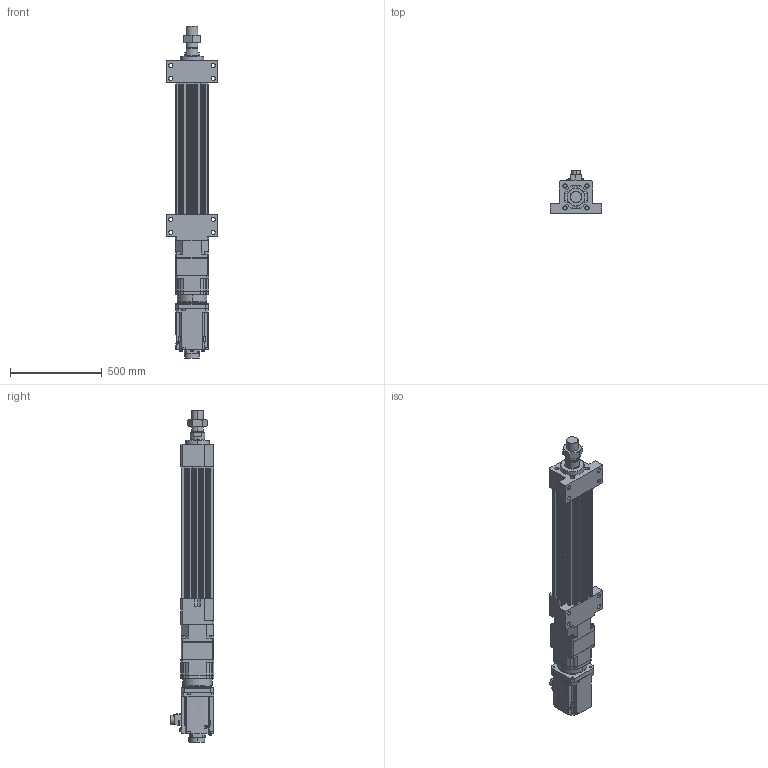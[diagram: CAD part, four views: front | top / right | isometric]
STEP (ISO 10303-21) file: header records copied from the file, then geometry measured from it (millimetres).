
FILE_DESCRIPTION (( 'STEP AP203' ), '1' );
FILE_NAME ('HES180HS-S400-W070G00-M-FFB.STEP', '2026-06-10T06:51:44', ( 'tms' ), ( '' ), 'SwSTEP 2.0', 'SolidWorks 2013', '' );
FILE_SCHEMA (( 'CONFIG_CONTROL_DESIGN' ));
Length unit declared in the file: millimetre
Products named in the file (9): HES180-M-ROD-400; AB1802; M64X2.0P; HG-SR702B; HES180-FFB-400; HES180HS-S400-W070G00-M-FFB; AB1801; HES180-S-G180; AB1803
Assembly tree (8 placements, depth 2):
  HES180HS-S400-W070G00-M-FFB
    HES180-FFB-400
    HES180-M-ROD-400
    M64X2.0P
    HES180-S-G180
    AB1801
    AB1802
    AB1803
    HG-SR702B
Bounding box: 280 x 239.1 x 1805.74 mm (x, y, z)
Volume: 28669226.4 mm3; surface area: 2560018.5 mm2
Topology: 5 solids, 20 shells, 1552 faces, 4023 edges, 2624 vertices
Faces by surface type: cylinder 704, plane 639, cone 142, bspline 63, torus 4
Entity records: 56368 total; most frequent: CARTESIAN_POINT 16636, DIRECTION 8361, ORIENTED_EDGE 7970, EDGE_CURVE 4009, AXIS2_PLACEMENT_3D 3129, VERTEX_POINT 2624, LINE 2103, VECTOR 2103
